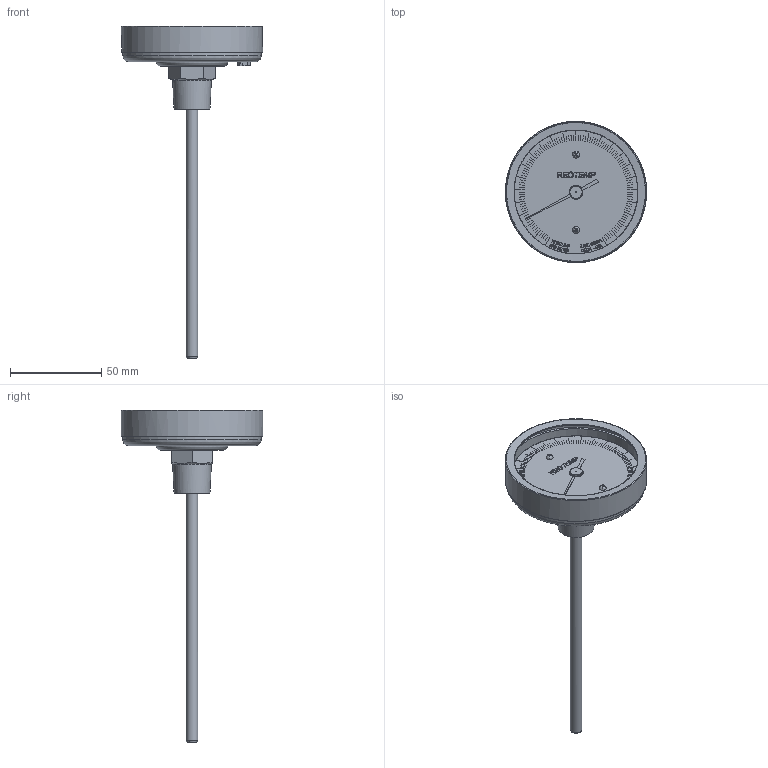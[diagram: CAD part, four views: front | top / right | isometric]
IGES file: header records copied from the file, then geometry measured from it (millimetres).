
Global section: file name: AA-half-NPT-IGS; native system: Autodesk Inventor 2014; preprocessor: unknown; author: Charles; date: 20151109.101658; units: inch
Bounding box: 77.45 x 77.47 x 182.13 mm (x, y, z)
Volume: 44888.8 mm3; surface area: 43866.9 mm2
Topology: 32 solids, 32 shells, 1653 faces, 4748 edges, 3173 vertices
Faces by surface type: bspline 1653
